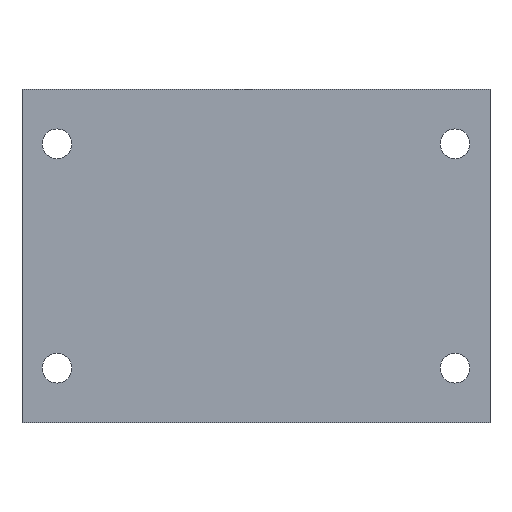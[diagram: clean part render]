
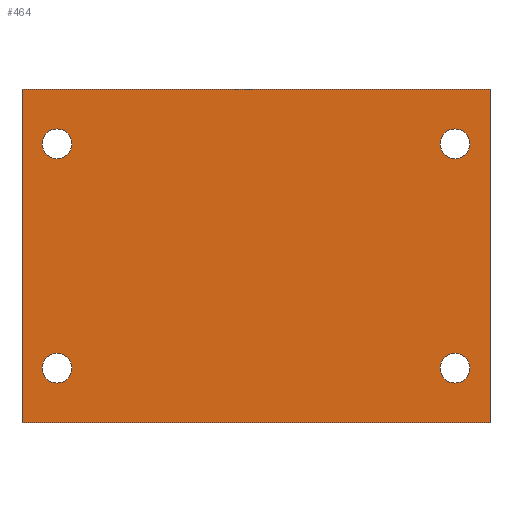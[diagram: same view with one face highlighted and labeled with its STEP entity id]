
A CAD part, front view. The second image highlights one B-rep face of the part: STEP entity #464.
In plain terms, the highlighted planar face has unit normal (0, -1, 0).
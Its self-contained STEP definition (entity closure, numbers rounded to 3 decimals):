
#3 = EDGE_CURVE ( 'NONE', #80, #797, #632, .T. ) ;
#17 = ORIENTED_EDGE ( 'NONE', *, *, #82, .F. ) ;
#25 = VERTEX_POINT ( 'NONE', #641 ) ;
#45 = DIRECTION ( 'NONE',  ( 0., -1., 0. ) ) ;
#53 = FACE_BOUND ( 'NONE', #181, .T. ) ;
#61 = EDGE_LOOP ( 'NONE', ( #430, #999 ) ) ;
#67 = LINE ( 'NONE', #837, #247 ) ;
#80 = VERTEX_POINT ( 'NONE', #664 ) ;
#82 = EDGE_CURVE ( 'NONE', #511, #581, #416, .T. ) ;
#97 = EDGE_CURVE ( 'NONE', #529, #328, #190, .T. ) ;
#98 = VECTOR ( 'NONE', #696, 1000. ) ;
#107 = DIRECTION ( 'NONE',  ( 0., -1., 0. ) ) ;
#127 = FACE_BOUND ( 'NONE', #954, .T. ) ;
#131 = EDGE_CURVE ( 'NONE', #314, #1087, #960, .T. ) ;
#174 = VECTOR ( 'NONE', #938, 1000. ) ;
#180 = AXIS2_PLACEMENT_3D ( 'NONE', #1009, #1003, #834 ) ;
#181 = EDGE_LOOP ( 'NONE', ( #586, #851 ) ) ;
#190 = CIRCLE ( 'NONE', #449, 2.715 ) ;
#215 = ORIENTED_EDGE ( 'NONE', *, *, #574, .F. ) ;
#233 = CARTESIAN_POINT ( 'NONE',  ( 36.332, 0., -10. ) ) ;
#246 = CARTESIAN_POINT ( 'NONE',  ( -36.332, 0., -12.715 ) ) ;
#247 = VECTOR ( 'NONE', #677, 1000. ) ;
#252 = ORIENTED_EDGE ( 'NONE', *, *, #774, .F. ) ;
#255 = ORIENTED_EDGE ( 'NONE', *, *, #934, .F. ) ;
#285 = DIRECTION ( 'NONE',  ( 0., 0., -1. ) ) ;
#286 = LINE ( 'NONE', #525, #98 ) ;
#291 = VERTEX_POINT ( 'NONE', #1030 ) ;
#308 = DIRECTION ( 'NONE',  ( 0., 0., -1. ) ) ;
#314 = VERTEX_POINT ( 'NONE', #616 ) ;
#319 = DIRECTION ( 'NONE',  ( 0., -1., 0. ) ) ;
#328 = VERTEX_POINT ( 'NONE', #343 ) ;
#343 = CARTESIAN_POINT ( 'NONE',  ( -36.332, 0., -48.235 ) ) ;
#371 = CIRCLE ( 'NONE', #1037, 2.715 ) ;
#389 = DIRECTION ( 'NONE',  ( 0., 0., -1. ) ) ;
#394 = EDGE_CURVE ( 'NONE', #328, #529, #371, .T. ) ;
#405 = DIRECTION ( 'NONE',  ( 0., 0., -1. ) ) ;
#409 = CARTESIAN_POINT ( 'NONE',  ( -42.725, 0., -60.95 ) ) ;
#415 = VECTOR ( 'NONE', #762, 1000. ) ;
#416 = CIRCLE ( 'NONE', #625, 2.715 ) ;
#430 = ORIENTED_EDGE ( 'NONE', *, *, #1012, .F. ) ;
#449 = AXIS2_PLACEMENT_3D ( 'NONE', #993, #759, #308 ) ;
#458 = CARTESIAN_POINT ( 'NONE',  ( 36.332, 0., -50.95 ) ) ;
#464 = ADVANCED_FACE ( 'NONE', ( #127, #961, #505, #53, #732 ), #478, .T. ) ;
#468 = EDGE_CURVE ( 'NONE', #25, #976, #703, .T. ) ;
#478 = PLANE ( 'NONE',  #180 ) ;
#484 = CARTESIAN_POINT ( 'NONE',  ( -36.332, 0., -7.285 ) ) ;
#490 = CARTESIAN_POINT ( 'NONE',  ( -36.332, 0., -53.665 ) ) ;
#500 = DIRECTION ( 'NONE',  ( 0., 0., -1. ) ) ;
#502 = CARTESIAN_POINT ( 'NONE',  ( -36.332, 0., -50.95 ) ) ;
#504 = AXIS2_PLACEMENT_3D ( 'NONE', #458, #107, #809 ) ;
#505 = FACE_BOUND ( 'NONE', #61, .T. ) ;
#511 = VERTEX_POINT ( 'NONE', #484 ) ;
#515 = ORIENTED_EDGE ( 'NONE', *, *, #131, .F. ) ;
#525 = CARTESIAN_POINT ( 'NONE',  ( -42.725, 0., 0. ) ) ;
#529 = VERTEX_POINT ( 'NONE', #490 ) ;
#539 = DIRECTION ( 'NONE',  ( 0., -1., 0. ) ) ;
#560 = EDGE_CURVE ( 'NONE', #291, #25, #67, .T. ) ;
#568 = DIRECTION ( 'NONE',  ( 0., 0., -1. ) ) ;
#574 = EDGE_CURVE ( 'NONE', #291, #691, #970, .T. ) ;
#581 = VERTEX_POINT ( 'NONE', #246 ) ;
#586 = ORIENTED_EDGE ( 'NONE', *, *, #394, .F. ) ;
#588 = EDGE_CURVE ( 'NONE', #1087, #314, #1048, .T. ) ;
#616 = CARTESIAN_POINT ( 'NONE',  ( 36.332, 0., -12.715 ) ) ;
#625 = AXIS2_PLACEMENT_3D ( 'NONE', #1004, #45, #389 ) ;
#632 = CIRCLE ( 'NONE', #504, 2.715 ) ;
#635 = EDGE_LOOP ( 'NONE', ( #1080, #515 ) ) ;
#641 = CARTESIAN_POINT ( 'NONE',  ( 42.725, 0., -60.95 ) ) ;
#664 = CARTESIAN_POINT ( 'NONE',  ( 36.332, 0., -53.665 ) ) ;
#672 = CIRCLE ( 'NONE', #1052, 2.715 ) ;
#677 = DIRECTION ( 'NONE',  ( 1., 0., 0. ) ) ;
#683 = EDGE_LOOP ( 'NONE', ( #255, #215, #749, #1070 ) ) ;
#688 = AXIS2_PLACEMENT_3D ( 'NONE', #715, #539, #285 ) ;
#691 = VERTEX_POINT ( 'NONE', #889 ) ;
#696 = DIRECTION ( 'NONE',  ( 1., 0., 0. ) ) ;
#703 = LINE ( 'NONE', #1073, #415 ) ;
#715 = CARTESIAN_POINT ( 'NONE',  ( 36.332, 0., -50.95 ) ) ;
#732 = FACE_OUTER_BOUND ( 'NONE', #683, .T. ) ;
#744 = CARTESIAN_POINT ( 'NONE',  ( 36.332, 0., -7.285 ) ) ;
#749 = ORIENTED_EDGE ( 'NONE', *, *, #560, .T. ) ;
#759 = DIRECTION ( 'NONE',  ( 0., -1., 0. ) ) ;
#760 = DIRECTION ( 'NONE',  ( 0., -1., 0. ) ) ;
#762 = DIRECTION ( 'NONE',  ( 0., 0., 1. ) ) ;
#774 = EDGE_CURVE ( 'NONE', #581, #511, #672, .T. ) ;
#788 = AXIS2_PLACEMENT_3D ( 'NONE', #1015, #845, #500 ) ;
#789 = CARTESIAN_POINT ( 'NONE',  ( 42.725, 0., 0. ) ) ;
#797 = VERTEX_POINT ( 'NONE', #926 ) ;
#809 = DIRECTION ( 'NONE',  ( 0., 0., -1. ) ) ;
#819 = AXIS2_PLACEMENT_3D ( 'NONE', #233, #319, #921 ) ;
#834 = DIRECTION ( 'NONE',  ( 0., 0., -1. ) ) ;
#837 = CARTESIAN_POINT ( 'NONE',  ( -42.725, 0., -60.95 ) ) ;
#845 = DIRECTION ( 'NONE',  ( 0., -1., 0. ) ) ;
#851 = ORIENTED_EDGE ( 'NONE', *, *, #97, .F. ) ;
#889 = CARTESIAN_POINT ( 'NONE',  ( -42.725, 0., 0. ) ) ;
#921 = DIRECTION ( 'NONE',  ( 0., 0., -1. ) ) ;
#922 = CARTESIAN_POINT ( 'NONE',  ( -36.332, 0., -10. ) ) ;
#926 = CARTESIAN_POINT ( 'NONE',  ( 36.332, 0., -48.235 ) ) ;
#934 = EDGE_CURVE ( 'NONE', #691, #976, #286, .T. ) ;
#938 = DIRECTION ( 'NONE',  ( 0., 0., 1. ) ) ;
#954 = EDGE_LOOP ( 'NONE', ( #17, #252 ) ) ;
#960 = CIRCLE ( 'NONE', #819, 2.715 ) ;
#961 = FACE_BOUND ( 'NONE', #635, .T. ) ;
#970 = LINE ( 'NONE', #409, #174 ) ;
#976 = VERTEX_POINT ( 'NONE', #789 ) ;
#993 = CARTESIAN_POINT ( 'NONE',  ( -36.332, 0., -50.95 ) ) ;
#999 = ORIENTED_EDGE ( 'NONE', *, *, #3, .F. ) ;
#1003 = DIRECTION ( 'NONE',  ( 0., -1., 0. ) ) ;
#1004 = CARTESIAN_POINT ( 'NONE',  ( -36.332, 0., -10. ) ) ;
#1009 = CARTESIAN_POINT ( 'NONE',  ( -42.725, 0., -60.95 ) ) ;
#1012 = EDGE_CURVE ( 'NONE', #797, #80, #1123, .T. ) ;
#1015 = CARTESIAN_POINT ( 'NONE',  ( 36.332, 0., -10. ) ) ;
#1030 = CARTESIAN_POINT ( 'NONE',  ( -42.725, 0., -60.95 ) ) ;
#1037 = AXIS2_PLACEMENT_3D ( 'NONE', #502, #1088, #568 ) ;
#1048 = CIRCLE ( 'NONE', #788, 2.715 ) ;
#1052 = AXIS2_PLACEMENT_3D ( 'NONE', #922, #760, #405 ) ;
#1070 = ORIENTED_EDGE ( 'NONE', *, *, #468, .T. ) ;
#1073 = CARTESIAN_POINT ( 'NONE',  ( 42.725, 0., -60.95 ) ) ;
#1080 = ORIENTED_EDGE ( 'NONE', *, *, #588, .F. ) ;
#1087 = VERTEX_POINT ( 'NONE', #744 ) ;
#1088 = DIRECTION ( 'NONE',  ( 0., -1., 0. ) ) ;
#1123 = CIRCLE ( 'NONE', #688, 2.715 ) ;
